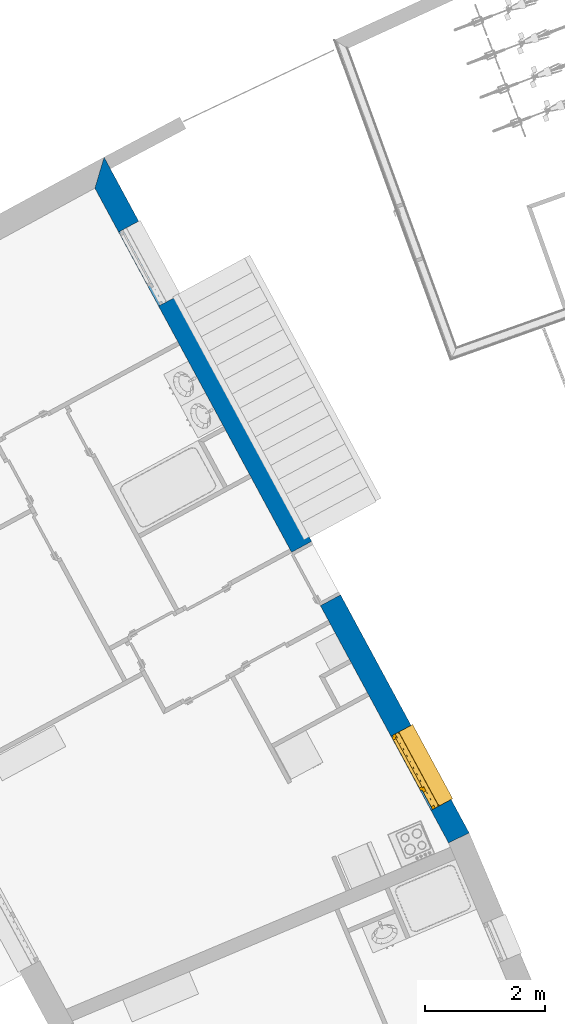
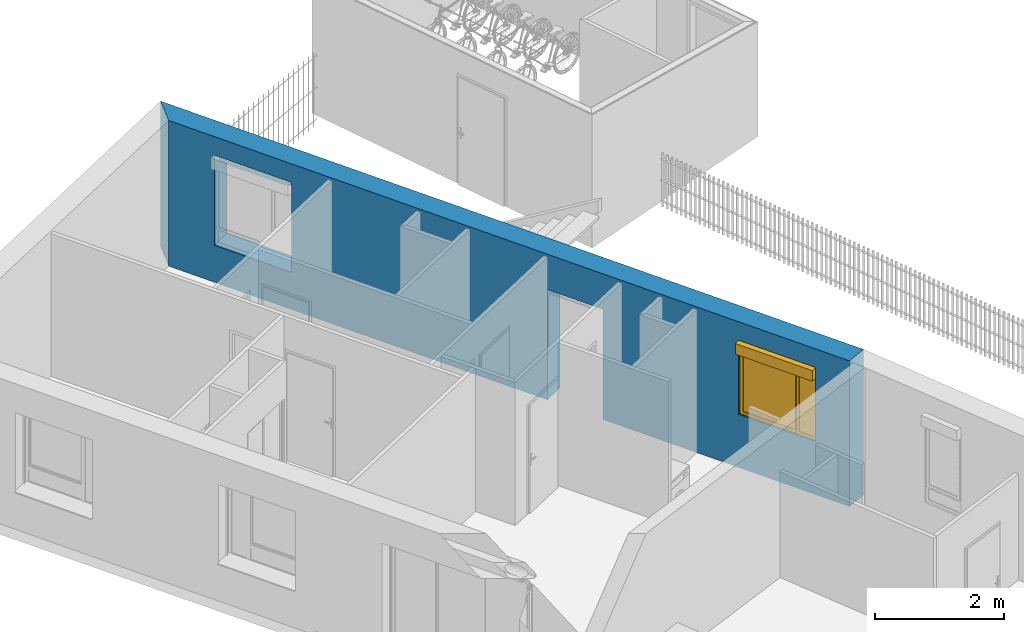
# One storey, part 66 of 195: 1 wall, 1 window, 3 openings.
"""IFC2X3 building model written with IfcOpenShell, lengths in metres."""

from ifc_helpers import new_model, entity, si_unit, converted_unit, derived_unit, money_unit, direction, frame, origin_with_axes, origin_2d_with_axis, place, context, subcontext, project, spatial, polyline, rectangle, outline, extrude, open_shell, faceted_brep, surface_model, source, transform, mapped, material, layer, layer_set, layer_usage, type_object, element, fill, save


model = new_model("IFC2X3")

# Units and contexts
model_context = context("Model", 3, precision=1e-05, world=origin_with_axes(), true_north=direction((0.0, 1.0)))
body_context = subcontext(model_context, "Body", "Model", "MODEL_VIEW")
ifc_project = project(units=[si_unit("LENGTHUNIT", "METRE"), si_unit("AREAUNIT", "SQUARE_METRE"), si_unit("VOLUMEUNIT", "CUBIC_METRE"), converted_unit("PLANEANGLEUNIT", "DEGREE", entity("IfcPlaneAngleMeasure", 0.0174532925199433), si_unit("PLANEANGLEUNIT", "RADIAN"), dimensions=[0, 0, 0, 0, 0, 0, 0]), money_unit("CHF"), converted_unit("TIMEUNIT", "Year", entity("IfcTimeMeasure", 31557600.0), si_unit("TIMEUNIT", "SECOND"), dimensions=[0, 0, 1, 0, 0, 0, 0]), si_unit("MASSUNIT", "GRAM", prefix="KILO"), si_unit("THERMODYNAMICTEMPERATUREUNIT", "DEGREE_CELSIUS"), si_unit("LUMINOUSINTENSITYUNIT", "LUMEN"), si_unit("ENERGYUNIT", "JOULE", prefix="MEGA"), derived_unit("THERMALCONDUCTANCEUNIT", [(si_unit("POWERUNIT", "WATT"), 1), (si_unit("LENGTHUNIT", "METRE"), -1), (si_unit("THERMODYNAMICTEMPERATUREUNIT", "KELVIN"), -1)]), derived_unit("SPECIFICHEATCAPACITYUNIT", [(si_unit("ENERGYUNIT", "JOULE"), 1), (si_unit("MASSUNIT", "GRAM", prefix="KILO"), -1), (si_unit("THERMODYNAMICTEMPERATUREUNIT", "KELVIN"), -1)]), derived_unit("MASSDENSITYUNIT", [(si_unit("MASSUNIT", "GRAM", prefix="KILO"), 1), (si_unit("VOLUMEUNIT", "CUBIC_METRE"), -1)])], contexts=[model_context])

# Site, building, storey
site_placement = place(None, origin_with_axes())
site = spatial("IfcSite", under=ifc_project, at=site_placement, Name="Site", CompositionType="ELEMENT")
building_placement = place(site_placement, origin_with_axes())
building = spatial("IfcBuilding", under=site, at=building_placement, Name="Bâtiment", CompositionType="ELEMENT")
storey_placement = place(building_placement, origin_with_axes())
storey = spatial("IfcBuildingStorey", under=building, at=storey_placement, Name="rdc", CompositionType="ELEMENT", Elevation=0.0)

# Wall, openings, window
ifc_material_1 = material(Name="Parpaing 312445824")
ifc_layer_1 = layer(ifc_material_1, 0.22, ventilated="UNKNOWN")
ifc_material_2 = material(Name="Isolant styromousse 301821074")
ifc_layer_2 = layer(ifc_material_2, 0.16, ventilated="UNKNOWN")
ifc_layer_set = layer_set([ifc_layer_1, ifc_layer_2], Name="isol int 22+16 0836643197")
ifc_layer_usage = layer_usage(ifc_layer_set, "AXIS2", "NEGATIVE", 0.0)
wall_type = type_object("IfcWallType", Name="isol int 22+16 0836643197 380", PredefinedType="NOTDEFINED")
wall_placement = place(storey_placement, frame((9561.285709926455, -1024.008620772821, 57.7), z_axis=(0.0, 0.0, 1.0), x_axis=(0.4753186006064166, -0.8798137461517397, 0.0)))
wall = element("IfcWallStandardCase", 1, at=wall_placement, inside=storey, type_object=wall_type, material=ifc_layer_usage, Name="Mur-113", context=body_context, shape_type="SweptSolid", body=[
    extrude(outline(polyline([(0.3809761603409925, -0.3800000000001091), (12.75104633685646, -0.3800000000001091), (12.76934803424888, 0.0), (0.0, 0.0), (0.3809761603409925, -0.3800000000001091)])), origin_with_axes(), (0.0, 0.0, 1.0), 2.75),
])
opening_1_placement = place(wall_placement, frame((1.910548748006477, 0.0, 0.7000000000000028), z_axis=(0.0, 0.0, 1.0), x_axis=(1.0, 0.0, 0.0)))
element("IfcOpeningElement", 2, at=opening_1_placement, cuts=wall, Name="Fen-045", context=body_context, shape_type="Brep", body=[
    faceted_brep([(-0.6999999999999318, -0.2199999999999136, 1.5), (0.7000000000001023, -0.2199999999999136, 1.5), (0.7000000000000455, 5.341037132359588, 1.5), (-0.6999999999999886, 5.341037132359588, 1.5), (-0.6999999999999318, -0.2199999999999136, 1.700000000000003), (0.7000000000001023, -0.2199999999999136, 1.700000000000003), (0.7000000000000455, -0.3000000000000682, 1.5), (0.7000000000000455, -0.3000000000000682, 0.0), (0.7000000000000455, 5.341037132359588, 0.0), (-0.6999999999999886, 5.341037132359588, 0.0), (-0.6999999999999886, -0.2999999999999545, 1.5), (-0.7000000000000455, -0.2999999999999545, 0.0), (-0.6999999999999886, -0.4800000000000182, 1.5), (-0.6999999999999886, -0.4800000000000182, 1.700000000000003), (0.7000000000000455, -0.4800000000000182, 1.700000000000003), (0.7000000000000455, -0.4800000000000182, 1.5), (0.6999999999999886, -5.721037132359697, 1.5), (0.6999999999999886, -5.721037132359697, 0.0), (-0.7000000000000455, -5.721037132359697, 0.0), (-0.7000000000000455, -5.721037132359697, 1.5)], [[[0, 1, 2, 3]], [[1, 0, 4, 5]], [[1, 6, 7, 8, 2]], [[2, 8, 9, 3]], [[10, 0, 3, 9, 11]], [[0, 10, 12, 13, 4]], [[14, 5, 4, 13]], [[6, 1, 5, 14, 15]], [[6, 15, 16, 17, 7]], [[7, 11, 9, 8]], [[12, 10, 11, 18, 19]], [[12, 15, 14, 13]], [[15, 12, 19, 16]], [[19, 18, 17, 16]], [[11, 7, 17, 18]]]),
])
opening_2_placement = place(wall_placement, frame((11.43670824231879, 0.0, 1.0), z_axis=(0.0, 0.0, 1.0), x_axis=(1.0, 0.0, 0.0)))
opening_2 = element("IfcOpeningElement", 3, at=opening_2_placement, cuts=wall, Name="Fen-045", context=body_context, shape_type="Brep", body=[
    faceted_brep([(-0.6999999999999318, -0.2199999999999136, 1.200000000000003), (0.7000000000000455, -0.2199999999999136, 1.200000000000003), (0.7000000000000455, 5.341037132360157, 1.200000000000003), (-0.6999999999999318, 5.341037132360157, 1.200000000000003), (-0.6999999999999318, -0.2199999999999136, 1.399999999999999), (0.7000000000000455, -0.2199999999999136, 1.399999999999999), (0.7000000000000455, -0.2999999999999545, 1.200000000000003), (0.7000000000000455, -0.2999999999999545, 0.0), (0.7000000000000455, 5.341037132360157, 0.0), (-0.6999999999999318, 5.341037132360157, 0.0), (-0.7000000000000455, -0.2999999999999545, 1.200000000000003), (-0.7000000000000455, -0.2999999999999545, 0.0), (-0.7000000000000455, -0.4800000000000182, 1.200000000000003), (-0.7000000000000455, -0.4800000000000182, 1.399999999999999), (0.7000000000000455, -0.4800000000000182, 1.399999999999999), (0.7000000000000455, -0.4800000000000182, 1.200000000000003), (0.7000000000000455, -5.721037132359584, 1.200000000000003), (0.7000000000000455, -5.721037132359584, 0.0), (-0.7000000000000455, -5.721037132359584, 0.0), (-0.7000000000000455, -5.721037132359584, 1.200000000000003)], [[[0, 1, 2, 3]], [[1, 0, 4, 5]], [[1, 6, 7, 8, 2]], [[2, 8, 9, 3]], [[10, 0, 3, 9, 11]], [[0, 10, 12, 13, 4]], [[14, 5, 4, 13]], [[6, 1, 5, 14, 15]], [[6, 15, 16, 17, 7]], [[7, 11, 9, 8]], [[12, 10, 11, 18, 19]], [[12, 15, 14, 13]], [[15, 12, 19, 16]], [[19, 18, 17, 16]], [[11, 7, 17, 18]]]),
])
opening_3_placement = place(wall_placement, frame((7.765329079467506, 0.0, 0.0), z_axis=(0.0, 0.0, 1.0), x_axis=(1.0, 0.0, 0.0)))
element("IfcOpeningElement", 4, at=opening_3_placement, cuts=wall, Name="Por-290", context=body_context, shape_type="SweptSolid", body=[
    extrude(rectangle(XDim=1.01000001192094, YDim=2.079999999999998, at=origin_2d_with_axis()), frame((-5.960487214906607e-09, 0.3799999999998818, 1.039999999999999), z_axis=(0.0, -1.0, 0.0), x_axis=(-1.0, 0.0, 0.0)), (0.0, 0.0, 1.0), 0.76),
])
window_style = type_object("IfcWindowStyle", Name="Fenêtre variable 27", ConstructionType="NOTDEFINED", OperationType="DOUBLE_PANEL_VERTICAL", ParameterTakesPrecedence=False, Sizeable=False)
shared_shape = source(origin_with_axes(), body_context, "Body", "SurfaceModel", [
    surface_model("IfcShellBasedSurfaceModel", [(0.7, -0.05100000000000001, 0.05), (-0.7, -0.05100000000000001, 0.05000000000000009), (-0.7, -0.05100000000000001, 0.04000000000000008), (0.7, -0.05100000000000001, 0.04), (-0.7, -0.3799999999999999, 0.02900000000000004), (0.7, -0.3799999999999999, 0.02899999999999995), (-0.7, -0.3799999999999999, 0.00900000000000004), (0.7, -0.3799999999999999, 0.008999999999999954), (-0.7, -0.3699999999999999, 0.01900000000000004), (0.7, -0.3699999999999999, 0.01899999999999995)], [open_shell([[[0, 1, 2, 3]], [[3, 2, 4, 5]], [[5, 4, 6, 7]], [[7, 6, 8, 9]]])]),
    faceted_brep([(0.7, -0.13, 1.4), (0.7, 0.13, 1.4), (0.697, 0.13, 1.4), (0.697, -0.13, 1.4), (0.7, -0.13, 1.2), (0.7, 0.13, 1.2), (0.697, 0.13, 1.2), (0.697, -0.13, 1.2)], [[[0, 1, 2, 3]], [[0, 4, 5, 1]], [[1, 5, 6, 2]], [[3, 2, 6, 7]], [[4, 0, 3, 7]], [[5, 4, 7, 6]]]),
    faceted_brep([(-0.6970000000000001, -0.1299999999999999, 1.4), (-0.6970000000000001, 0.1300000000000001, 1.4), (-0.7000000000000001, 0.1300000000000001, 1.4), (-0.7000000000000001, -0.1299999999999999, 1.4), (-0.6970000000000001, -0.1299999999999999, 1.2), (-0.6970000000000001, 0.1300000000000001, 1.2), (-0.7000000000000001, 0.1300000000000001, 1.2), (-0.7000000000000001, -0.1299999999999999, 1.2)], [[[0, 1, 2, 3]], [[0, 4, 5, 1]], [[1, 5, 6, 2]], [[3, 2, 6, 7]], [[4, 0, 3, 7]], [[5, 4, 7, 6]]]),
    faceted_brep([(0.697, -0.13, 1.2), (0.697, -0.13, 1.4), (-0.697, -0.1299999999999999, 1.4), (-0.697, -0.1299999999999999, 1.2), (0.697, -0.127, 1.2), (0.697, -0.127, 1.397), (0.697, 0.127, 1.397), (0.697, 0.127, 1.203), (0.697, -0.108, 1.203), (0.697, -0.108, 1.2), (0.697, 0.13, 1.2), (0.697, 0.13, 1.4), (-0.697, 0.1300000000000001, 1.4), (-0.697, 0.1300000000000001, 1.2), (-0.697, -0.1079999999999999, 1.2), (-0.697, -0.1079999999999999, 1.203), (-0.697, 0.1270000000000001, 1.203), (-0.697, 0.1270000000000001, 1.397), (-0.697, -0.1269999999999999, 1.397), (-0.697, -0.1269999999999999, 1.2)], [[[0, 1, 2, 3]], [[0, 4, 5, 6, 7, 8, 9, 10, 11, 1]], [[1, 11, 12, 2]], [[3, 2, 12, 13, 14, 15, 16, 17, 18, 19]], [[4, 0, 3, 19]], [[5, 4, 19, 18]], [[6, 5, 18, 17]], [[7, 6, 17, 16]], [[8, 7, 16, 15]], [[9, 8, 15, 14]], [[10, 9, 14, 13]], [[11, 10, 13, 12]]]),
    faceted_brep([(0.694, -0.08075423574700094, 1.285760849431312), (0.694, -0.07705479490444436, 1.271954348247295), (0.694, -0.07101408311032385, 1.259), (0.694, -0.06281564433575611, 1.247291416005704), (0.694, -0.05270858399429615, 1.237184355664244), (0.694, -0.04099999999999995, 1.228985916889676), (0.694, -0.02804565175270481, 1.222945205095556), (0.694, -0.01423915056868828, 1.219245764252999), (0.694, 0.0, 1.218), (0.694, 0.01423915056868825, 1.219245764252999), (0.694, 0.02804565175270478, 1.222945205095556), (0.694, 0.04099999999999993, 1.228985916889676), (0.694, 0.05270858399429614, 1.237184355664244), (0.694, 0.06281564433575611, 1.247291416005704), (0.694, 0.07101408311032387, 1.259), (0.694, 0.07705479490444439, 1.271954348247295), (0.694, 0.08075423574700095, 1.285760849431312), (0.694, 0.0819999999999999, 1.3), (0.694, 0.08075423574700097, 1.314239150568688), (0.694, 0.0770547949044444, 1.328045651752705), (0.694, 0.07101408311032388, 1.341), (0.694, 0.06281564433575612, 1.352708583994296), (0.694, 0.05270858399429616, 1.362815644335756), (0.694, 0.04099999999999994, 1.371014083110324), (0.694, 0.02804565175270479, 1.377054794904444), (0.694, 0.01423915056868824, 1.380754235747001), (0.694, 0.0, 1.382), (0.694, -0.01423915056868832, 1.380754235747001), (0.694, -0.02804565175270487, 1.377054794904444), (0.694, -0.04100000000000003, 1.371014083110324), (0.694, -0.05270858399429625, 1.362815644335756), (0.694, -0.06281564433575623, 1.352708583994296), (0.694, -0.07101408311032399, 1.341), (0.694, -0.07705479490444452, 1.328045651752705), (0.694, -0.0807542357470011, 1.314239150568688), (0.694, -0.08200000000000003, 1.3), (-0.694, -0.08075423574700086, 1.285760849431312), (-0.694, -0.07705479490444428, 1.271954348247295), (-0.694, -0.07101408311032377, 1.259), (-0.694, -0.06281564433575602, 1.247291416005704), (-0.694, -0.05270858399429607, 1.237184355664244), (-0.694, -0.04099999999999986, 1.228985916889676), (-0.694, -0.02804565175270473, 1.222945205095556), (-0.694, -0.0142391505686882, 1.219245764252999), (-0.694, 0.0, 1.218), (-0.694, 0.01423915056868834, 1.219245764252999), (-0.694, 0.02804565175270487, 1.222945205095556), (-0.694, 0.04100000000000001, 1.228985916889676), (-0.694, 0.05270858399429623, 1.237184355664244), (-0.694, 0.06281564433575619, 1.247291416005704), (-0.694, 0.07101408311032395, 1.259), (-0.694, 0.07705479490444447, 1.271954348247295), (-0.694, 0.08075423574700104, 1.285760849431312), (-0.694, 0.08199999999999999, 1.3), (-0.694, 0.08075423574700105, 1.314239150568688), (-0.694, 0.07705479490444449, 1.328045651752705), (-0.694, 0.07101408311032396, 1.341), (-0.694, 0.0628156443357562, 1.352708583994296), (-0.694, 0.05270858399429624, 1.362815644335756), (-0.694, 0.04100000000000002, 1.371014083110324), (-0.694, 0.02804565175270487, 1.377054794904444), (-0.694, 0.01423915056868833, 1.380754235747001), (-0.694, 0.0, 1.382), (-0.694, -0.01423915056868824, 1.380754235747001), (-0.694, -0.02804565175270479, 1.377054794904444), (-0.694, -0.04099999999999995, 1.371014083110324), (-0.694, -0.05270858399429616, 1.362815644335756), (-0.694, -0.06281564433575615, 1.352708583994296), (-0.694, -0.07101408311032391, 1.341), (-0.694, -0.07705479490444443, 1.328045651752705), (-0.694, -0.08075423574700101, 1.314239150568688), (-0.694, -0.08199999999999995, 1.3)], [[[0, 1, 2, 3, 4, 5, 6, 7, 8, 9, 10, 11, 12, 13, 14, 15, 16, 17, 18, 19, 20, 21, 22, 23, 24, 25, 26, 27, 28, 29, 30, 31, 32, 33, 34, 35]], [[1, 0, 36, 37]], [[2, 1, 37, 38]], [[3, 2, 38, 39]], [[4, 3, 39, 40]], [[5, 4, 40, 41]], [[6, 5, 41, 42]], [[7, 6, 42, 43]], [[8, 7, 43, 44]], [[9, 8, 44, 45]], [[10, 9, 45, 46]], [[11, 10, 46, 47]], [[12, 11, 47, 48]], [[13, 12, 48, 49]], [[14, 13, 49, 50]], [[15, 14, 50, 51]], [[16, 15, 51, 52]], [[17, 16, 52, 53]], [[18, 17, 53, 54]], [[19, 18, 54, 55]], [[20, 19, 55, 56]], [[21, 20, 56, 57]], [[22, 21, 57, 58]], [[23, 22, 58, 59]], [[24, 23, 59, 60]], [[25, 24, 60, 61]], [[26, 25, 61, 62]], [[27, 26, 62, 63]], [[28, 27, 63, 64]], [[29, 28, 64, 65]], [[30, 29, 65, 66]], [[31, 30, 66, 67]], [[32, 31, 67, 68]], [[33, 32, 68, 69]], [[34, 33, 69, 70]], [[35, 34, 70, 71]], [[0, 35, 71, 36]], [[36, 71, 70, 69, 68, 67, 66, 65, 64, 63, 62, 61, 60, 59, 58, 57, 56, 55, 54, 53, 52, 51, 50, 49, 48, 47, 46, 45, 44, 43, 42, 41, 40, 39, 38, 37]]]),
    faceted_brep([(-0.7, -0.105, 0.03), (-0.7, -0.13, 0.03), (-0.7, -0.1299999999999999, 1.2), (-0.7, -0.1049999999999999, 1.2), (-0.6749999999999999, -0.105, 0.03), (-0.6749999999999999, -0.108, 0.03), (-0.697, -0.108, 0.03), (-0.697, -0.127, 0.03), (-0.6749999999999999, -0.127, 0.03), (-0.6749999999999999, -0.13, 0.03), (-0.6749999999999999, -0.1299999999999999, 1.2), (-0.6749999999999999, -0.1269999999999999, 1.2), (-0.697, -0.1269999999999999, 1.2), (-0.697, -0.1079999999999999, 1.2), (-0.6749999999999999, -0.1079999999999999, 1.2), (-0.6749999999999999, -0.1049999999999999, 1.2)], [[[0, 1, 2, 3]], [[0, 4, 5, 6, 7, 8, 9, 1]], [[1, 9, 10, 2]], [[3, 2, 10, 11, 12, 13, 14, 15]], [[4, 0, 3, 15]], [[5, 4, 15, 14]], [[6, 5, 14, 13]], [[7, 6, 13, 12]], [[8, 7, 12, 11]], [[9, 8, 11, 10]]]),
    faceted_brep([(0.7, -0.105, 0.03), (0.7, -0.1049999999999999, 1.2), (0.7, -0.1299999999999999, 1.2), (0.7, -0.13, 0.03), (0.6749999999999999, -0.105, 0.03), (0.6749999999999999, -0.1049999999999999, 1.2), (0.6749999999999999, -0.1079999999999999, 1.2), (0.697, -0.1079999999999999, 1.2), (0.697, -0.1269999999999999, 1.2), (0.6749999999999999, -0.1269999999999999, 1.2), (0.6749999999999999, -0.1299999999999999, 1.2), (0.6749999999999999, -0.13, 0.03), (0.6749999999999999, -0.127, 0.03), (0.697, -0.127, 0.03), (0.697, -0.108, 0.03), (0.6749999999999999, -0.108, 0.03)], [[[0, 1, 2, 3]], [[4, 5, 1, 0]], [[1, 5, 6, 7, 8, 9, 10, 2]], [[3, 2, 10, 11]], [[0, 3, 11, 12, 13, 14, 15, 4]], [[15, 6, 5, 4]], [[14, 7, 6, 15]], [[13, 8, 7, 14]], [[12, 9, 8, 13]], [[11, 10, 9, 12]]]),
    surface_model("IfcShellBasedSurfaceModel", [(0.697, -0.115, 1.3), (-0.697, -0.1149999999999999, 1.3), (-0.697, -0.12, 1.3), (0.697, -0.12, 1.3), (0.697, -0.115, 1.3), (0.697, -0.12, 1.3), (-0.697, -0.1199999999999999, 1.3), (-0.697, -0.1149999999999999, 1.3)], [open_shell([[[0, 1, 2, 3]], [[4, 5, 6, 7]]])]),
    faceted_brep([(0.697, -0.115, 1.3), (0.697, -0.1166666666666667, 1.283333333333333), (-0.697, -0.1166666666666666, 1.283333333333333), (-0.697, -0.1149999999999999, 1.3), (0.697, -0.12, 1.3), (0.697, -0.1216666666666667, 1.283333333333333), (0.697, -0.1216666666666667, 1.266666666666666), (0.697, -0.12, 1.25), (0.697, -0.115, 1.25), (0.697, -0.1166666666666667, 1.266666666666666), (-0.697, -0.1166666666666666, 1.266666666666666), (-0.697, -0.1149999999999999, 1.25), (-0.697, -0.1199999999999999, 1.25), (-0.697, -0.1216666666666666, 1.266666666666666), (-0.697, -0.1216666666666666, 1.283333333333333), (-0.697, -0.1199999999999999, 1.3)], [[[0, 1, 2, 3]], [[0, 4, 5, 6, 7, 8, 9, 1]], [[1, 9, 10, 2]], [[3, 2, 10, 11, 12, 13, 14, 15]], [[4, 0, 3, 15]], [[5, 4, 15, 14]], [[6, 5, 14, 13]], [[7, 6, 13, 12]], [[8, 7, 12, 11]], [[9, 8, 11, 10]]]),
    faceted_brep([(0.697, -0.115, 1.25), (0.697, -0.1166666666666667, 1.233333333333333), (-0.697, -0.1166666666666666, 1.233333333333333), (-0.697, -0.1149999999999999, 1.25), (0.697, -0.12, 1.25), (0.697, -0.1216666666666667, 1.233333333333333), (0.697, -0.1216666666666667, 1.216666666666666), (0.697, -0.12, 1.2), (0.697, -0.115, 1.2), (0.697, -0.1166666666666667, 1.216666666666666), (-0.697, -0.1166666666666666, 1.216666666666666), (-0.697, -0.1149999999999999, 1.2), (-0.697, -0.1199999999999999, 1.2), (-0.697, -0.1216666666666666, 1.216666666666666), (-0.697, -0.1216666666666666, 1.233333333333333), (-0.697, -0.1199999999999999, 1.25)], [[[0, 1, 2, 3]], [[0, 4, 5, 6, 7, 8, 9, 1]], [[1, 9, 10, 2]], [[3, 2, 10, 11, 12, 13, 14, 15]], [[4, 0, 3, 15]], [[5, 4, 15, 14]], [[6, 5, 14, 13]], [[7, 6, 13, 12]], [[8, 7, 12, 11]], [[9, 8, 11, 10]]]),
    faceted_brep([(0.6749999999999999, 0.0, 1.15), (0.6749999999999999, -0.02500000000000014, 1.15), (0.6499999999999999, -0.02500000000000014, 1.15), (0.6499999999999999, -0.05000000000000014, 1.15), (0.7, -0.05000000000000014, 1.15), (0.7, 0.0, 1.15), (0.6749999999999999, 0.0, 0.05000000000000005), (0.6749999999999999, -0.02500000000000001, 0.05000000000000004), (0.6499999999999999, -0.02500000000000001, 0.05000000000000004), (0.6499999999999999, -0.05000000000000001, 0.05000000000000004), (0.7, -0.05000000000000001, 0.05000000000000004), (0.7, 0.0, 0.05000000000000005)], [[[0, 1, 2, 3, 4, 5]], [[1, 0, 6, 7]], [[8, 2, 1, 7]], [[2, 8, 9, 3]], [[4, 3, 9, 10]], [[5, 4, 10, 11]], [[6, 0, 5, 11]], [[7, 6, 11, 10, 9, 8]]]),
    faceted_brep([(-0.3068894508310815, -0.02500000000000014, 1.15), (-0.3318894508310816, -0.02500000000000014, 1.15), (-0.3318894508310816, 0.0, 1.15), (-0.3768894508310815, 0.0, 1.15), (-0.3768894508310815, -0.05000000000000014, 1.15), (-0.3068894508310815, -0.05000000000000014, 1.15), (-0.3068894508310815, -0.02500000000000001, 0.05000000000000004), (-0.3318894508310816, -0.02500000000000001, 0.05000000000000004), (-0.3318894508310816, 0.0, 0.05000000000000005), (-0.3768894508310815, 0.0, 0.05000000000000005), (-0.3768894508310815, -0.05000000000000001, 0.05000000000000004), (-0.3068894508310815, -0.05000000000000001, 0.05000000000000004)], [[[0, 1, 2, 3, 4, 5]], [[1, 0, 6, 7]], [[8, 2, 1, 7]], [[2, 8, 9, 3]], [[9, 10, 4, 3]], [[10, 11, 5, 4]], [[6, 0, 5, 11]], [[7, 6, 11, 10, 9, 8]]]),
    faceted_brep([(-0.3068894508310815, -0.02500000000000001, 0.05000000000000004), (-0.3318894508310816, -0.02500000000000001, 0.05000000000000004), (-0.3318894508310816, 0.0, 0.05000000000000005), (-0.3768894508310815, 0.0, 0.05000000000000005), (-0.3768894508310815, -0.05000000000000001, 0.05000000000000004), (-0.3068894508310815, -0.05000000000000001, 0.05000000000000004), (0.6499999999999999, -0.02500000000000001, 0.05000000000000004), (0.6749999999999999, -0.02500000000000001, 0.05000000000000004), (0.6749999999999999, -0.025, 0.02500000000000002), (-0.3318894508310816, -0.025, 0.02500000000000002), (-0.3318894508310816, 0.0, 0.02500000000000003), (0.6749999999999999, 0.0, 0.02500000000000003), (0.6749999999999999, 0.0, 0.05000000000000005), (0.7, 0.0, 0.05000000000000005), (0.7, 0.0, 0.0), (-0.7, 0.0, 0.0), (-0.7, 0.0, 0.05000000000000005), (-0.6499999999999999, 0.0, 0.05000000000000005), (-0.6499999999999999, -0.05000000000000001, 0.05000000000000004), (0.7, -0.05000000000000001, 0.05000000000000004), (0.6499999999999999, -0.05000000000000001, 0.05000000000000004), (-0.7, -0.05000000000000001, 0.05000000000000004), (-0.7, -0.05, 0.0), (0.7, -0.05, 0.0)], [[[0, 1, 2, 3, 4, 5]], [[1, 0, 6, 7, 8, 9]], [[10, 2, 1, 9]], [[11, 12, 13, 14, 15, 16, 17, 3, 2, 10]], [[17, 18, 4, 3]], [[19, 20, 5, 4, 18, 21, 22, 23]], [[6, 0, 5, 20]], [[7, 6, 20, 19, 13, 12]], [[7, 12, 11, 8]], [[11, 10, 9, 8]], [[13, 19, 23, 14]], [[14, 23, 22, 15]], [[15, 22, 21, 16]], [[16, 21, 18, 17]]]),
    faceted_brep([(0.6749999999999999, 0.0, 1.15), (0.6749999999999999, 0.0, 1.175), (-0.3318894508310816, 0.0, 1.175), (-0.3318894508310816, 0.0, 1.15), (-0.3768894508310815, 0.0, 1.15), (-0.6499999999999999, 0.0, 1.15), (-0.7, 0.0, 1.15), (-0.7, 0.0, 1.2), (0.7, 0.0, 1.2), (0.7, 0.0, 1.15), (0.6749999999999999, -0.02500000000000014, 1.15), (0.6749999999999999, -0.02500000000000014, 1.175), (-0.3318894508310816, -0.02500000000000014, 1.175), (-0.3318894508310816, -0.02500000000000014, 1.15), (-0.3068894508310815, -0.02500000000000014, 1.15), (-0.3068894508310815, -0.05000000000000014, 1.15), (-0.3768894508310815, -0.05000000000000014, 1.15), (-0.6499999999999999, -0.05000000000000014, 1.15), (-0.7, -0.05000000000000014, 1.15), (-0.7, -0.05000000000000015, 1.2), (0.7, -0.05000000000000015, 1.2), (0.7, -0.05000000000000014, 1.15), (0.6499999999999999, -0.05000000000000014, 1.15), (0.6499999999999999, -0.02500000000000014, 1.15)], [[[0, 1, 2, 3, 4, 5, 6, 7, 8, 9]], [[1, 0, 10, 11]], [[2, 1, 11, 12]], [[3, 2, 12, 13]], [[13, 14, 15, 16, 4, 3]], [[4, 16, 17, 5]], [[5, 17, 18, 6]], [[6, 18, 19, 7]], [[7, 19, 20, 8]], [[8, 20, 21, 9]], [[10, 0, 9, 21, 22, 23]], [[14, 13, 12, 11, 10, 23]], [[14, 23, 22, 15]], [[16, 15, 22, 21, 20, 19, 18, 17]]]),
    faceted_brep([(-0.6499999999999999, -0.05000000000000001, 0.05), (-0.7, -0.05000000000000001, 0.05), (-0.7, 0.0, 0.05000000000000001), (-0.6499999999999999, 0.0, 0.05000000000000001), (-0.6499999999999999, -0.05000000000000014, 1.15), (-0.7, -0.05000000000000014, 1.15), (-0.7, 0.0, 1.15), (-0.6499999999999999, 0.0, 1.15)], [[[0, 1, 2, 3]], [[0, 4, 5, 1]], [[1, 5, 6, 2]], [[3, 2, 6, 7]], [[4, 0, 3, 7]], [[5, 4, 7, 6]]]),
    faceted_brep([(0.625, -0.02500000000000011, 1.125), (0.6749999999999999, -0.02500000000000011, 1.125), (0.6749999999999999, 0.0249999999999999, 1.125), (0.625, 0.0249999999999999, 1.125), (0.625, -0.02499999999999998, 0.07500000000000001), (0.6749999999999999, -0.02499999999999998, 0.07500000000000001), (0.6749999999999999, 0.02500000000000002, 0.07500000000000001), (0.625, 0.02500000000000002, 0.07500000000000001)], [[[0, 1, 2, 3]], [[0, 4, 5, 1]], [[1, 5, 6, 2]], [[3, 2, 6, 7]], [[4, 0, 3, 7]], [[5, 4, 7, 6]]]),
    faceted_brep([(-0.2818894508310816, -0.02500000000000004, 0.07500000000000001), (-0.3318894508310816, -0.02500000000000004, 0.07500000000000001), (-0.3318894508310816, 0.02499999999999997, 0.07500000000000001), (-0.2818894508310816, 0.02499999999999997, 0.07500000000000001), (-0.2818894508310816, -0.02500000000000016, 1.125), (-0.3318894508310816, -0.02500000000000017, 1.125), (-0.3318894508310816, 0.02499999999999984, 1.125), (-0.2818894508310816, 0.02499999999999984, 1.125)], [[[0, 1, 2, 3]], [[0, 4, 5, 1]], [[1, 5, 6, 2]], [[3, 2, 6, 7]], [[4, 0, 3, 7]], [[5, 4, 7, 6]]]),
    faceted_brep([(-0.3318894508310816, -0.02500000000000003, 0.025), (-0.3318894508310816, -0.02500000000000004, 0.07500000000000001), (-0.3318894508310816, 0.02499999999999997, 0.07500000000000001), (-0.3318894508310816, 0.02499999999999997, 0.02500000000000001), (0.6749999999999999, -0.02499999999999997, 0.025), (0.6749999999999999, -0.02499999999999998, 0.07500000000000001), (0.625, -0.02499999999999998, 0.07500000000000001), (-0.2818894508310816, -0.02500000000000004, 0.07500000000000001), (-0.2818894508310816, 0.02499999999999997, 0.07500000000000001), (0.625, 0.02500000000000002, 0.07500000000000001), (0.6749999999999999, 0.02500000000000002, 0.07500000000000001), (0.6749999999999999, 0.02500000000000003, 0.02500000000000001)], [[[0, 1, 2, 3]], [[0, 4, 5, 6, 7, 1]], [[1, 7, 8, 2]], [[3, 2, 8, 9, 10, 11]], [[4, 0, 3, 11]], [[5, 4, 11, 10]], [[6, 5, 10, 9]], [[7, 6, 9, 8]]]),
    faceted_brep([(0.6749999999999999, -0.02500000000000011, 1.175), (0.6749999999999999, -0.02500000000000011, 1.125), (0.6749999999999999, 0.0249999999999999, 1.125), (0.6749999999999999, 0.02499999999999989, 1.175), (-0.3318894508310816, -0.02500000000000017, 1.175), (-0.3318894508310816, -0.02500000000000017, 1.125), (-0.2818894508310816, -0.02500000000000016, 1.125), (0.625, -0.02500000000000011, 1.125), (0.625, 0.0249999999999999, 1.125), (-0.2818894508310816, 0.02499999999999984, 1.125), (-0.3318894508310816, 0.02499999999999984, 1.125), (-0.3318894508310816, 0.02499999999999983, 1.175)], [[[0, 1, 2, 3]], [[0, 4, 5, 6, 7, 1]], [[1, 7, 8, 2]], [[3, 2, 8, 9, 10, 11]], [[4, 0, 3, 11]], [[5, 4, 11, 10]], [[6, 5, 10, 9]], [[7, 6, 9, 8]]]),
    surface_model("IfcShellBasedSurfaceModel", [(0.625, -0.01000000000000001, 0.07500000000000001), (0.625, -0.01000000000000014, 1.125), (-0.2818894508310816, -0.01000000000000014, 1.125), (-0.2818894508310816, -0.01000000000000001, 0.07500000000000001)], [open_shell([[[0, 1, 2, 3]]])]),
    surface_model("IfcShellBasedSurfaceModel", [(0.625, 0.009999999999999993, 0.07500000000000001), (-0.2818894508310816, 0.009999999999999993, 0.07500000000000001), (-0.2818894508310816, 0.009999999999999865, 1.125), (0.625, 0.009999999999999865, 1.125)], [open_shell([[[0, 1, 2, 3]]])]),
    surface_model("IfcShellBasedSurfaceModel", [(-0.3768894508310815, -0.035, 0.05), (-0.3768894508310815, -0.03500000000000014, 1.15), (-0.65, -0.03500000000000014, 1.15), (-0.65, -0.035, 0.05)], [open_shell([[[0, 1, 2, 3]]])]),
    surface_model("IfcShellBasedSurfaceModel", [(-0.3768894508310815, -0.015, 0.05), (-0.65, -0.015, 0.05), (-0.65, -0.01500000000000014, 1.15), (-0.3768894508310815, -0.01500000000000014, 1.15)], [open_shell([[[0, 1, 2, 3]]])]),
])
window_placement = place(opening_2_placement, frame((0.7000000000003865, 0.0, 0.0), z_axis=(0.0, 0.0, 1.0), x_axis=(-1.0, 0.0, 0.0)))
window = element("IfcWindow", 5, at=window_placement, inside=storey, type_object=window_style, Name="Fen-045", OverallHeight=1.2, OverallWidth=1.4, context=body_context, shape_type="MappedRepresentation", body=[
    mapped(shared_shape, transform((0.7000000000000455, 0.3500000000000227, 0.0))),
])
fill(opening_2, window)

save(model, "model.ifc")
